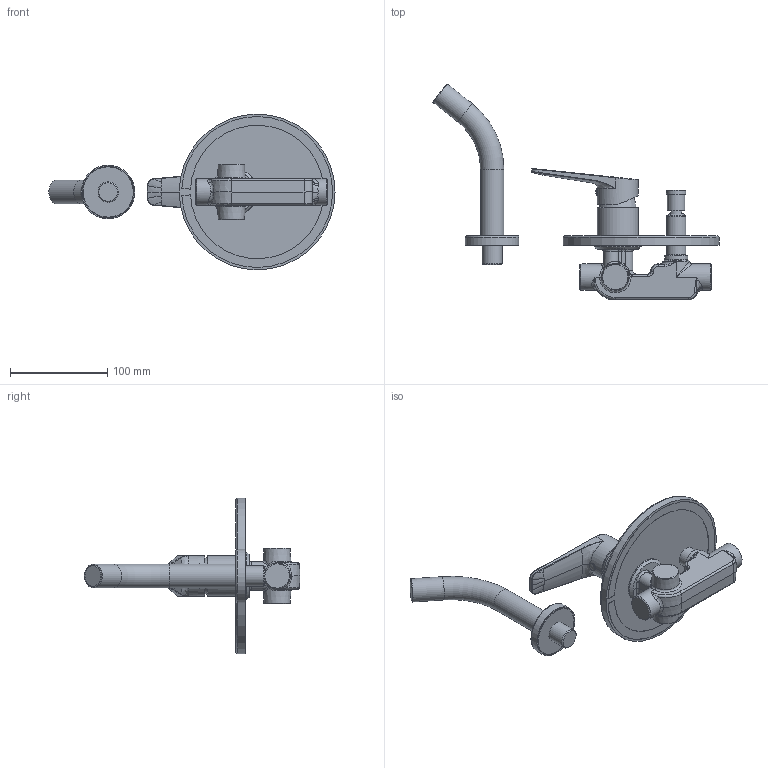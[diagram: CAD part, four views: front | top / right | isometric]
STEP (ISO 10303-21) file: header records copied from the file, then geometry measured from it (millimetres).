
FILE_DESCRIPTION(/* description */ (''),/* implementation_level */ '2;1');
FILE_NAME(/* name */ 'C:\Users\mlarrea\Desktop\3D-Z106-L6-0-CH.stp',/* time_stamp */ '2018-08-22T07:55:54-03:00',/* author */ ('mlarrea'),/* organization */ (''),/* preprocessor_version */ 'ST-DEVELOPER v17',/* originating_system */ 'Autodesk Inventor 2018',/* authorisation */ '');
FILE_SCHEMA (('AUTOMOTIVE_DESIGN { 1 0 10303 214 3 1 1 }'));
Length unit declared in the file: millimetre
Products named in the file (1): Pieza3
Bounding box: 293.8 x 221.8 x 160 mm (x, y, z)
Volume: 538993.5 mm3; surface area: 108292.6 mm2
Topology: 2 solids, 2 shells, 426 faces, 1100 edges, 688 vertices
Faces by surface type: bspline 147, plane 128, cylinder 91, torus 25, sphere 21, cone 14
Full cylindrical faces by diameter (mm): 4.2 x1, 6.7 x1, 8 x1, 14 x1, 18 x1, 20 x3, 20.9 x1, 23.7 x1, 24 x2, 27 x3, 42 x2, 48 x1, 55 x1, 160 x1
Entity records: 26152 total; most frequent: CARTESIAN_POINT 16108, ORIENTED_EDGE 2192, DIRECTION 1743, EDGE_CURVE 1096, VERTEX_POINT 688, AXIS2_PLACEMENT_3D 683, EDGE_LOOP 451, FACE_OUTER_BOUND 426
